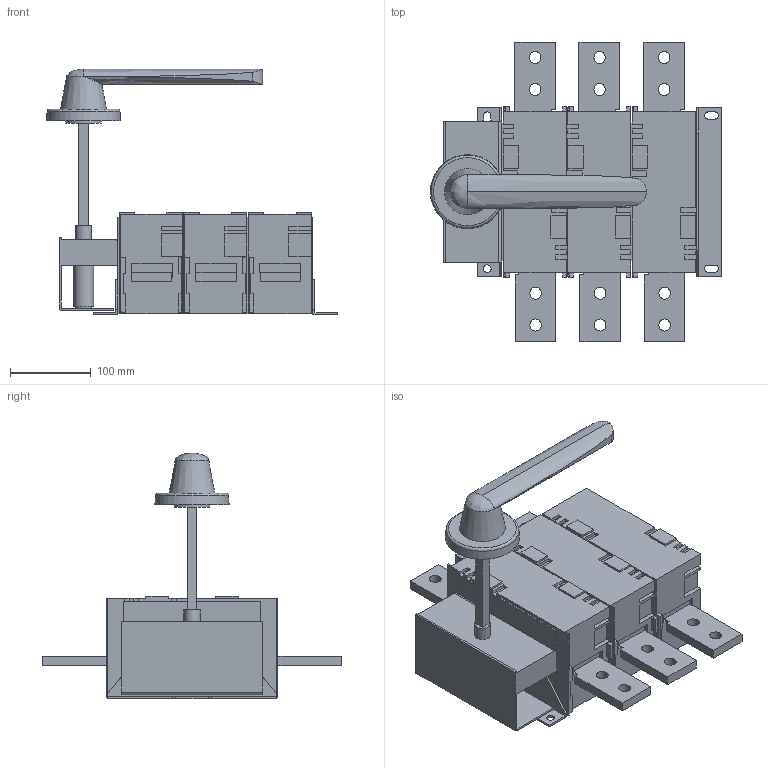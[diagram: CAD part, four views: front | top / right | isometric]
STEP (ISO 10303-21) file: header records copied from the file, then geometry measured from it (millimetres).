
FILE_DESCRIPTION (( 'STEP AP203' ), '1' );
FILE_NAME ('OptiSwitch DI-4-1000-1250-3P (m=16,3羱).STEP', '2023-02-26T20:38:17', ( '砐錪賧瘔蠈錪' ), ( '' ), 'SwSTEP 2.0', 'SolidWorks 2018', '' );
FILE_SCHEMA (( 'CONFIG_CONTROL_DESIGN' ));
Length unit declared in the file: millimetre
Products named in the file (1): OptiSwitch DI-4-1000-1250-3P (m=16,3羱)
Bounding box: 361 x 371.6 x 304.98 mm (x, y, z)
Volume: 7088143.1 mm3; surface area: 471045.9 mm2
Topology: 1 solids, 1 shells, 515 faces, 1487 edges, 986 vertices
Faces by surface type: plane 437, cylinder 68, bspline 7, cone 2, torus 1
Full cylindrical faces by diameter (mm): 9.5 x2, 20 x2, 25 x1, 44 x1
Entity records: 20223 total; most frequent: CARTESIAN_POINT 6527, ORIENTED_EDGE 2952, DIRECTION 2599, EDGE_CURVE 1476, VECTOR 1319, LINE 1319, VERTEX_POINT 984, AXIS2_PLACEMENT_3D 640
